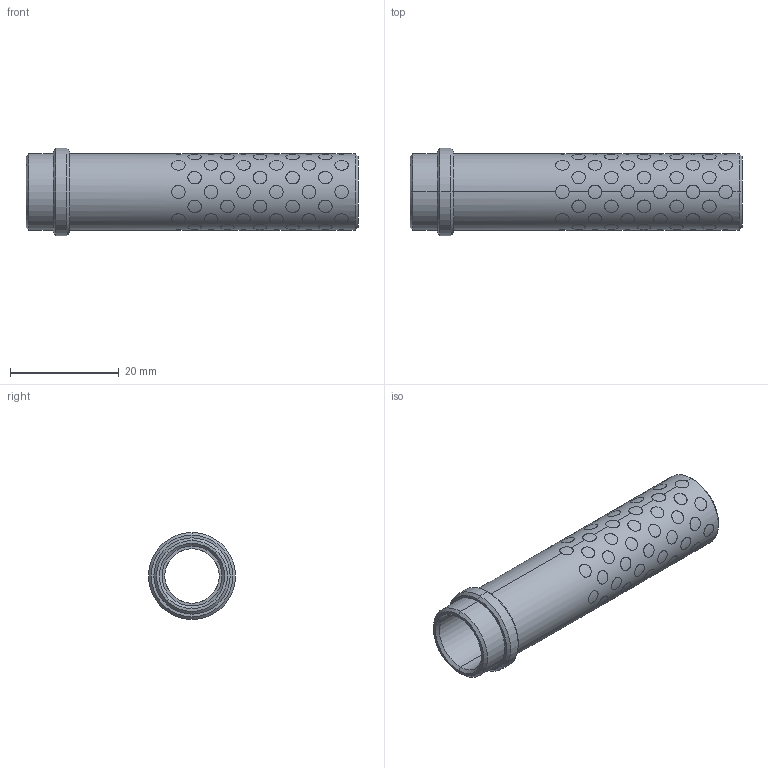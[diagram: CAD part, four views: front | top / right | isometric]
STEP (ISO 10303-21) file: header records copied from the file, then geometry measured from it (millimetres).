
FILE_DESCRIPTION((''),'2;1');
FILE_NAME('G31210056','2018-01-25T',('MANU'),(''),'PRO/ENGINEER BY PARAMETRIC TECHNOLOGY CORPORATION, 2012130','PRO/ENGINEER BY PARAMETRIC TECHNOLOGY CORPORATION, 2012130','');
FILE_SCHEMA(('CONFIG_CONTROL_DESIGN'));
Length unit declared in the file: millimetre
Products named in the file (1): G31210056
Bounding box: 61 x 16 x 16 mm (x, y, z)
Volume: 4286.3 mm3; surface area: 7643.8 mm2
Topology: 89 solids, 89 shells, 555 faces, 1182 edges, 784 vertices
Faces by surface type: cylinder 538, cone 12, plane 5
Entity records: 25050 total; most frequent: CARTESIAN_POINT 14225, ORIENTED_EDGE 2364, DIRECTION 1572, EDGE_CURVE 1182, VERTEX_POINT 784, B_SPLINE_CURVE_WITH_KNOTS 752, EDGE_LOOP 712, AXIS2_PLACEMENT_3D 587
